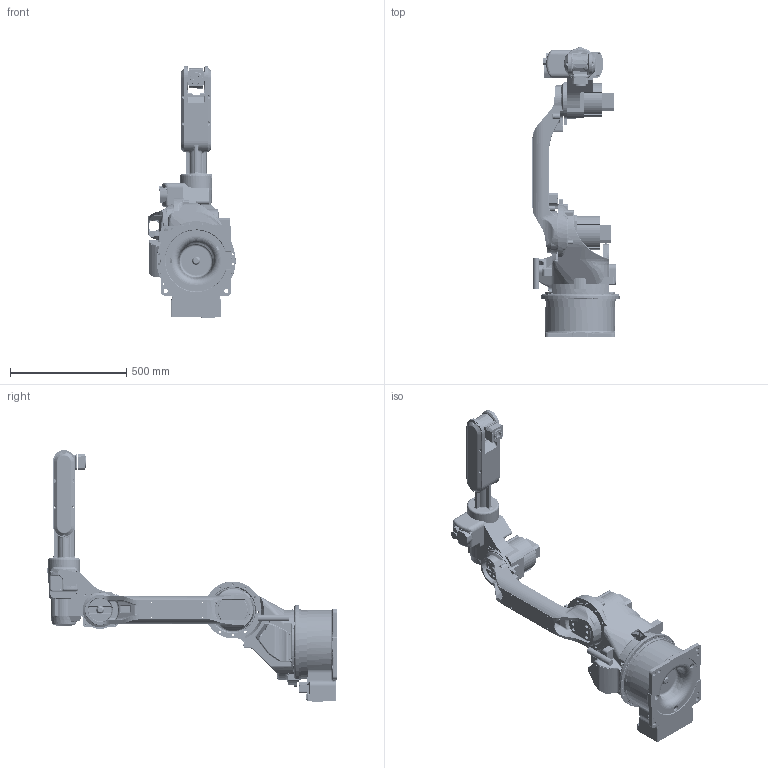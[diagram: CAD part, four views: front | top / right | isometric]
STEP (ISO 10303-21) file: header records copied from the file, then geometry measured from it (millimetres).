
FILE_DESCRIPTION((''),'2;1');
FILE_NAME('HP6_GAIKAN_ASM','2004-02-23T11:19:38',('daniel'),('FAURECIA EXHAUST SYSTEMS AB'),'PRO/ENGINEER BY PARAMETRIC TECHNOLOGY CORPORATION, 2003161','PRO/ENGINEER BY PARAMETRIC TECHNOLOGY CORPORATION, 2003161','');
FILE_SCHEMA(('CONFIG_CONTROL_DESIGN'));
Length unit declared in the file: millimetre
Products named in the file (39): HP6_GAIKAN_MAP; HP6_BASE_0816; HP6_CBASE_GAIKAN; HW0403850; HP6_BASE_ASSY_ASM; HP6_SHEAD_0814_C; SGMRS_12A2B_YR1; SGMRS_06A2B_YR1; HW9280732; HW0303910; HW0404050; N1Z0_S_COVER1; HP6_SAXIS_ASSY_ASM; HP6_LARM_0806; HW0303911; HP6_LAXIS_ASSY_ASM; HP6_CASING_0820; HW9280738; HP6_CASING_COVER_RYOUSAN; HP6_U_N_BASE_0; JL05_20; HP6_U_SIDECOVER; SMC_KQE10-03; HP6_U_CABLE_SUPPORT; TA1_S8; HP6_U_EQUIPMENT_CONNECTORS_ASM; HP6_U_COVER4; HP6_UAXIS_ASSY_ASM; HW0100506; HW9200780; HP6_R_BLOCK; HP6_RAXIS_ASSY_ASM; HW0200133; HW0403856-1; HP6_B_HAUSING; HP6_BAXIS_ASSY_ASM; HW0303560-1; HP6_TAXIS_ASSY_ASM; HP6_GAIKAN_ASM
Assembly tree (40 placements, depth 4):
  HP6_GAIKAN_ASM
    HP6_GAIKAN_MAP
    HP6_BASE_ASSY_ASM
      HP6_BASE_0816
      HP6_CBASE_GAIKAN
      HW0403850
    HP6_SAXIS_ASSY_ASM
      HP6_SHEAD_0814_C
      SGMRS_12A2B_YR1
      SGMRS_06A2B_YR1
      HW9280732
      HW0303910
      HW0404050
      N1Z0_S_COVER1
    HP6_LAXIS_ASSY_ASM
      HP6_LARM_0806
      HW0303911
    HP6_UAXIS_ASSY_ASM
      HP6_CASING_0820
      SGMRS_06A2B_YR1
      HW9280738
      HP6_CASING_COVER_RYOUSAN
      HP6_U_EQUIPMENT_CONNECTORS_ASM
        HP6_U_N_BASE_0
        JL05_20
        HP6_U_SIDECOVER
        SMC_KQE10-03
        HP6_U_CABLE_SUPPORT
        TA1_S8
      HP6_U_COVER4
    HP6_RAXIS_ASSY_ASM
      HW0100506
      HW9200780  x2
      HP6_R_BLOCK
    HP6_BAXIS_ASSY_ASM
      HW0200133
      HW0403856-1
      HP6_B_HAUSING
    HP6_TAXIS_ASSY_ASM
      HW0303560-1
Bounding box: 374.99 x 1250 x 1082.5 mm (x, y, z)
Volume: 22821853.9 mm3; surface area: 3829667 mm2
Topology: 31 solids, 225 shells, 5433 faces, 13917 edges, 8720 vertices
Faces by surface type: cylinder 2541, plane 1420, bspline 556, torus 452, cone 356, sphere 108
Entity records: 198063 total; most frequent: CARTESIAN_POINT 70734, DIRECTION 27220, ORIENTED_EDGE 25778, EDGE_CURVE 13273, AXIS2_PLACEMENT_3D 10964, VERTEX_POINT 8436, CIRCLE 6098, EDGE_LOOP 6041
